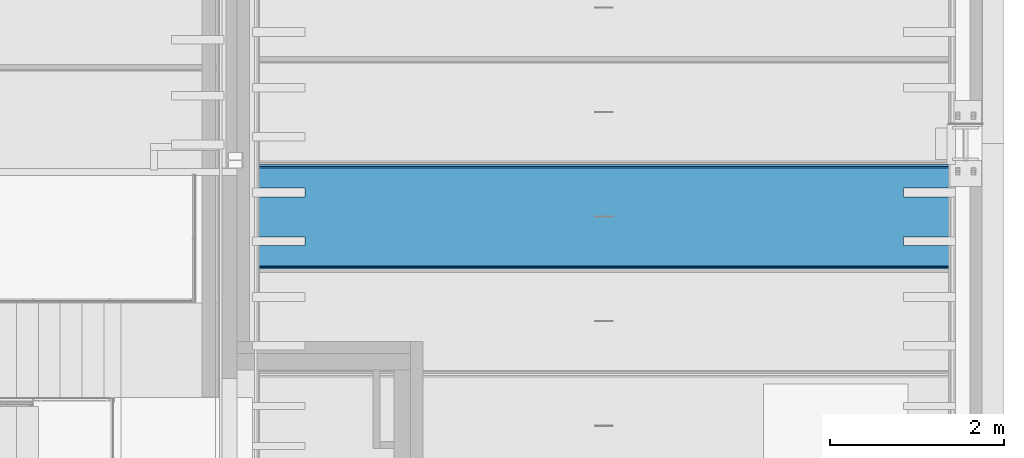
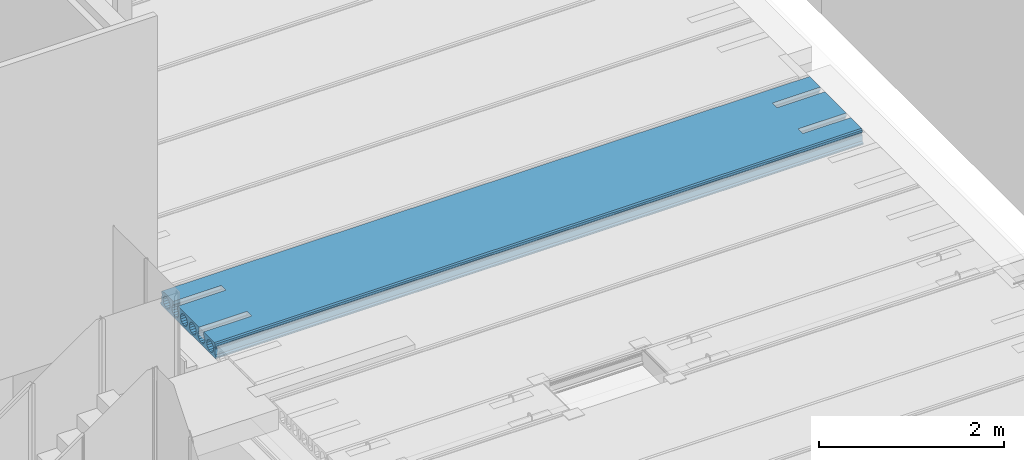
# One storey, part 102 of 230: 1 beam.
"""IFC4X3_ADD2 building model written with IfcOpenShell, lengths in millimetres."""

from ifc_helpers import new_model, si_unit, direction, origin_with_axes, place, context, subcontext, project, spatial, polygons, element, save


model = new_model("IFC4X3_ADD2")

# Units and contexts
model_context = context("Model", 3, precision=1e-05, world=origin_with_axes(), true_north=direction((0.0, 1.0)))
body_context = subcontext(model_context, "Body", "Model", "MODEL_VIEW")
ifc_project = project(units=[si_unit("LENGTHUNIT", "METRE", prefix="MILLI"), si_unit("AREAUNIT", "SQUARE_METRE"), si_unit("VOLUMEUNIT", "CUBIC_METRE"), si_unit("PLANEANGLEUNIT", "RADIAN"), si_unit("TIMEUNIT", "SECOND"), si_unit("MASSUNIT", "GRAM")], contexts=[model_context])

# Site, building, storey
site_placement = place(None, origin_with_axes())
site = spatial("IfcSite", under=ifc_project, at=site_placement, Name="Site", CompositionType="ELEMENT")
building_placement = place(site_placement, origin_with_axes())
building = spatial("IfcBuilding", under=site, at=building_placement, Name="IFC Building Story")
storey_placement = place(building_placement, origin_with_axes())
storey = spatial("IfcBuildingStorey", under=building, at=storey_placement, Name="ETAGE 00 (0)", Elevation=0.0)

# Beam
beam_placement = place(storey_placement, origin_with_axes())
element("IfcBeam", 1, at=beam_placement, inside=storey, Name="HOLLOWCORE SLAB", ObjectType="EB_SP200", context=body_context, shape_type="Tessellation", body=[
    polygons([(40131.189, 4549.0, 3999.9999909), (40131.189, 3371.0, 3999.9999909), (40131.189, 3360.0, 4012.9999909), (40131.189, 3360.0, 4029.9999909), (40131.189, 3380.0, 4044.9999909), (40131.189, 3381.450012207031, 4119.9999909), (40131.189, 3388.982621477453, 4128.676139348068), (40131.189, 3391.839930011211, 4139.805000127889), (40131.189, 3389.418636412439, 4151.036789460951), (40131.189, 3382.22998046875, 4159.9999909), (40131.189, 3382.711296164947, 4185.002769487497), (40131.189, 3398.0, 4199.9999909), (40131.189, 3630.0, 4199.9999909), (40131.189, 3630.0, 4155.806158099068), (40131.189, 3625.320544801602, 4152.679446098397), (40131.189, 3609.170974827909, 4128.509906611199), (40131.189, 3603.5, 4099.9999909), (40131.189, 3609.170974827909, 4071.490075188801), (40131.189, 3625.320544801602, 4047.320535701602), (40131.189, 3649.490084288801, 4031.170965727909), (40131.189, 3678.0, 4025.4999909), (40131.189, 3706.509915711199, 4031.170965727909), (40131.189, 3730.679455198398, 4047.320535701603), (40131.189, 3746.829025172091, 4071.490075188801), (40131.189, 3752.5, 4099.9999909), (40131.189, 3746.829025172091, 4128.509906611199), (40131.189, 3730.679455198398, 4152.679446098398), (40131.189, 3730.0, 4153.13344354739), (40131.189, 3730.0, 4199.9999909), (40131.189, 4190.0, 4199.9999909), (40131.189, 4190.0, 4153.13344354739), (40131.189, 4189.320544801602, 4152.679446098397), (40131.189, 4173.170974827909, 4128.509906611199), (40131.189, 4167.5, 4099.9999909), (40131.189, 4173.170974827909, 4071.490075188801), (40131.189, 4189.320544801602, 4047.320535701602), (40131.189, 4213.490084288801, 4031.170965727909), (40131.189, 4242.0, 4025.4999909), (40131.189, 4270.509915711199, 4031.170965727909), (40131.189, 4294.679455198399, 4047.320535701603), (40131.189, 4310.829025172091, 4071.490075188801), (40131.189, 4316.5, 4099.9999909), (40131.189, 4310.829025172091, 4128.509906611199), (40131.189, 4294.679455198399, 4152.679446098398), (40131.189, 4290.0, 4155.806158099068), (40131.189, 4290.0, 4199.9999909), (40131.189, 4522.0, 4199.9999909), (40131.189, 4537.28870383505, 4185.002769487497), (40131.189, 4537.77001953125, 4159.9999909), (40131.189, 4530.58136358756, 4151.036789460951), (40131.189, 4528.16006998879, 4139.805000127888), (40131.189, 4531.01737852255, 4128.676139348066), (40131.189, 4538.549987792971, 4119.9999909), (40131.189, 4540.0, 4044.9999909), (40131.189, 4560.0, 4029.9999909), (40131.189, 4560.0, 4012.9999909), (40131.189, 4482.6794551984, 4152.679446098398), (40131.189, 4458.5099157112, 4168.829016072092), (40131.189, 4430.0, 4174.4999909), (40131.189, 4401.4900842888, 4168.829016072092), (40131.189, 4377.3205448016, 4152.679446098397), (40131.189, 4361.17097482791, 4128.509906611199), (40131.189, 4355.5, 4099.9999909), (40131.189, 4361.17097482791, 4071.490075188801), (40131.189, 4377.3205448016, 4047.320535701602), (40131.189, 4401.4900842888, 4031.170965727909), (40131.189, 4430.0, 4025.4999909), (40131.189, 4458.5099157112, 4031.170965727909), (40131.189, 4482.6794551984, 4047.320535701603), (40131.189, 4498.82902517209, 4071.490075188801), (40131.189, 4504.5, 4099.9999909), (40131.189, 4498.82902517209, 4128.509906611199), (40131.189, 4106.679455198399, 4152.679446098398), (40131.189, 4082.509915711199, 4168.829016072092), (40131.189, 4054.0, 4174.4999909), (40131.189, 4025.490084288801, 4168.829016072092), (40131.189, 4001.320544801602, 4152.679446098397), (40131.189, 3985.170974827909, 4128.509906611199), (40131.189, 3979.5, 4099.9999909), (40131.189, 3985.170974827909, 4071.490075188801), (40131.189, 4001.320544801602, 4047.320535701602), (40131.189, 4025.490084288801, 4031.170965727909), (40131.189, 4054.0, 4025.4999909), (40131.189, 4082.509915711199, 4031.170965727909), (40131.189, 4106.679455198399, 4047.320535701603), (40131.189, 4122.829025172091, 4071.490075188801), (40131.189, 4128.5, 4099.9999909), (40131.189, 4122.829025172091, 4128.509906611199), (40131.189, 3918.679455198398, 4152.679446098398), (40131.189, 3894.509915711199, 4168.829016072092), (40131.189, 3866.0, 4174.4999909), (40131.189, 3837.490084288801, 4168.829016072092), (40131.189, 3813.320544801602, 4152.679446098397), (40131.189, 3797.170974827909, 4128.509906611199), (40131.189, 3791.5, 4099.9999909), (40131.189, 3797.170974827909, 4071.490075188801), (40131.189, 3813.320544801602, 4047.320535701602), (40131.189, 3837.490084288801, 4031.170965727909), (40131.189, 3866.0, 4025.4999909), (40131.189, 3894.509915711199, 4031.170965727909), (40131.189, 3918.679455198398, 4047.320535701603), (40131.189, 3934.829025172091, 4071.490075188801), (40131.189, 3940.5, 4099.9999909), (40131.189, 3934.829025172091, 4128.509906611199), (40131.189, 3542.679455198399, 4152.679446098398), (40131.189, 3518.509915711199, 4168.829016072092), (40131.189, 3490.0, 4174.4999909), (40131.189, 3461.490084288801, 4168.829016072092), (40131.189, 3437.320544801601, 4152.679446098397), (40131.189, 3421.17097482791, 4128.509906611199), (40131.189, 3415.500000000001, 4099.9999909), (40131.189, 3421.17097482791, 4071.490075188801), (40131.189, 3437.320544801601, 4047.320535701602), (40131.189, 3461.490084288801, 4031.170965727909), (40131.189, 3490.0, 4025.4999909), (40131.189, 3518.509915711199, 4031.170965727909), (40131.189, 3542.679455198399, 4047.320535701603), (40131.189, 3558.829025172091, 4071.490075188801), (40131.189, 3564.5, 4099.9999909), (40131.189, 3558.829025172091, 4128.509906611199), (48196.189, 4549.0, 3999.9999909), (48196.189, 4560.0, 4012.9999909), (48196.189, 4560.0, 4029.9999909), (48196.189, 4540.0, 4044.9999909), (48196.189, 4538.549987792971, 4119.9999909), (48196.189, 4531.01737852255, 4128.676139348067), (48196.189, 4528.16006998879, 4139.805000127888), (48196.189, 4530.58136358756, 4151.036789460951), (48196.189, 4537.77001953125, 4159.9999909), (48196.189, 4537.28870383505, 4185.002769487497), (48196.189, 4522.0, 4199.9999909), (48196.189, 4290.0, 4199.9999909), (48196.189, 4290.0, 4155.806158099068), (48196.189, 4294.679455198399, 4152.679446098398), (48196.189, 4310.829025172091, 4128.509906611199), (48196.189, 4316.5, 4099.9999909), (48196.189, 4310.829025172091, 4071.490075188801), (48196.189, 4294.679455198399, 4047.320535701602), (48196.189, 4270.509915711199, 4031.170965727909), (48196.189, 4242.0, 4025.4999909), (48196.189, 4213.490084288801, 4031.170965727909), (48196.189, 4189.320544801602, 4047.320535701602), (48196.189, 4173.170974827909, 4071.490075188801), (48196.189, 4167.5, 4099.9999909), (48196.189, 4173.170974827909, 4128.509906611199), (48196.189, 4189.320544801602, 4152.679446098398), (48196.189, 4190.0, 4153.13344354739), (48196.189, 4190.0, 4199.9999909), (48196.189, 3730.0, 4199.9999909), (48196.189, 3730.0, 4153.13344354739), (48196.189, 3730.679455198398, 4152.679446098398), (48196.189, 3746.829025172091, 4128.509906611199), (48196.189, 3752.5, 4099.9999909), (48196.189, 3746.829025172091, 4071.490075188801), (48196.189, 3730.679455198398, 4047.320535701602), (48196.189, 3706.509915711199, 4031.170965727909), (48196.189, 3678.0, 4025.4999909), (48196.189, 3649.490084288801, 4031.170965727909), (48196.189, 3625.320544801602, 4047.320535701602), (48196.189, 3609.170974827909, 4071.490075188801), (48196.189, 3603.5, 4099.9999909), (48196.189, 3609.170974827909, 4128.509906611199), (48196.189, 3625.320544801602, 4152.679446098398), (48196.189, 3630.0, 4155.806158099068), (48196.189, 3630.0, 4199.9999909), (48196.189, 3398.0, 4199.9999909), (48196.189, 3382.711296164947, 4185.002769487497), (48196.189, 3382.22998046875, 4159.9999909), (48196.189, 3389.418636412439, 4151.036789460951), (48196.189, 3391.839930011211, 4139.805000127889), (48196.189, 3388.982621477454, 4128.676139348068), (48196.189, 3381.450012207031, 4119.9999909), (48196.189, 3380.0, 4044.9999909), (48196.189, 3360.0, 4029.9999909), (48196.189, 3360.0, 4012.9999909), (48196.189, 3371.0, 3999.9999909), (48196.189, 4482.6794551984, 4152.679446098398), (48196.189, 4498.82902517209, 4128.509906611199), (48196.189, 4504.5, 4099.9999909), (48196.189, 4498.82902517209, 4071.490075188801), (48196.189, 4482.6794551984, 4047.320535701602), (48196.189, 4458.5099157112, 4031.170965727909), (48196.189, 4430.0, 4025.4999909), (48196.189, 4401.4900842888, 4031.170965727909), (48196.189, 4377.3205448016, 4047.320535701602), (48196.189, 4361.17097482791, 4071.490075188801), (48196.189, 4355.5, 4099.9999909), (48196.189, 4361.17097482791, 4128.509906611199), (48196.189, 4377.3205448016, 4152.679446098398), (48196.189, 4401.4900842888, 4168.829016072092), (48196.189, 4430.0, 4174.4999909), (48196.189, 4458.5099157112, 4168.829016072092), (48196.189, 4106.679455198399, 4152.679446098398), (48196.189, 4122.829025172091, 4128.509906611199), (48196.189, 4128.5, 4099.9999909), (48196.189, 4122.829025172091, 4071.490075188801), (48196.189, 4106.679455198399, 4047.320535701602), (48196.189, 4082.509915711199, 4031.170965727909), (48196.189, 4054.0, 4025.4999909), (48196.189, 4025.490084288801, 4031.170965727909), (48196.189, 4001.320544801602, 4047.320535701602), (48196.189, 3985.170974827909, 4071.490075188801), (48196.189, 3979.5, 4099.9999909), (48196.189, 3985.170974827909, 4128.509906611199), (48196.189, 4001.320544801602, 4152.679446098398), (48196.189, 4025.490084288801, 4168.829016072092), (48196.189, 4054.0, 4174.4999909), (48196.189, 4082.509915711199, 4168.829016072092), (48196.189, 3918.679455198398, 4152.679446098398), (48196.189, 3934.829025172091, 4128.509906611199), (48196.189, 3940.5, 4099.9999909), (48196.189, 3934.829025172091, 4071.490075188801), (48196.189, 3918.679455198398, 4047.320535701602), (48196.189, 3894.509915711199, 4031.170965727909), (48196.189, 3866.0, 4025.4999909), (48196.189, 3837.490084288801, 4031.170965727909), (48196.189, 3813.320544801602, 4047.320535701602), (48196.189, 3797.170974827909, 4071.490075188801), (48196.189, 3791.5, 4099.9999909), (48196.189, 3797.170974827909, 4128.509906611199), (48196.189, 3813.320544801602, 4152.679446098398), (48196.189, 3837.490084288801, 4168.829016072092), (48196.189, 3866.0, 4174.4999909), (48196.189, 3894.509915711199, 4168.829016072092), (48196.189, 3542.679455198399, 4152.679446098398), (48196.189, 3558.829025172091, 4128.509906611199), (48196.189, 3564.5, 4099.9999909), (48196.189, 3558.829025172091, 4071.490075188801), (48196.189, 3542.679455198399, 4047.320535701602), (48196.189, 3518.509915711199, 4031.170965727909), (48196.189, 3490.0, 4025.4999909), (48196.189, 3461.490084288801, 4031.170965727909), (48196.189, 3437.320544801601, 4047.320535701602), (48196.189, 3421.17097482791, 4071.490075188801), (48196.189, 3415.500000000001, 4099.9999909), (48196.189, 3421.17097482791, 4128.509906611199), (48196.189, 3437.320544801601, 4152.679446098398), (48196.189, 3461.490084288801, 4168.829016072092), (48196.189, 3490.0, 4174.4999909), (48196.189, 3518.509915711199, 4168.829016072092), (40731.189, 4290.0, 4199.9999909), (40731.189, 4190.0, 4199.9999909), (40731.189, 3730.0, 4199.9999909), (40731.189, 3630.0, 4199.9999909), (47596.18900000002, 3630.0, 4199.9999909), (47596.18900000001, 3730.0, 4199.9999909), (47596.18900000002, 4190.0, 4199.9999909), (47596.18900000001, 4290.0, 4199.9999909), (47596.18900000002, 4290.0, 4155.806158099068), (47596.18900000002, 4270.509915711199, 4168.829016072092), (40731.189, 4270.5099157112, 4168.829016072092), (40731.189, 4290.0, 4155.806158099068), (47596.18900000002, 4242.0, 4174.4999909), (40731.189, 4242.0, 4174.4999909), (47596.18900000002, 4213.490084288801, 4168.829016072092), (40731.189, 4213.490084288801, 4168.829016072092), (40731.189, 4190.0, 4153.13344354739), (47596.18900000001, 4190.0, 4153.13344354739), (47596.18900000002, 3730.0, 4153.13344354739), (47596.18900000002, 3706.509915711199, 4168.829016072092), (40731.189, 3706.509915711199, 4168.829016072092), (40731.189, 3730.0, 4153.13344354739), (47596.18900000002, 3678.0, 4174.4999909), (40731.189, 3678.0, 4174.4999909), (47596.18900000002, 3649.490084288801, 4168.829016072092), (40731.189, 3649.490084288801, 4168.829016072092), (40731.189, 3630.0, 4155.806158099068), (47596.18900000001, 3630.0, 4155.806158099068), (40731.189, 4190.0, 4199.999996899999), (40731.189, 4290.0, 4199.999996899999), (47596.18900000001, 4290.0, 4199.999996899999), (47596.18900000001, 4190.0, 4199.999996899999), (47596.18900000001, 3730.0, 4199.999996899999), (47596.18900000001, 3630.0, 4199.999996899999), (40731.189, 3630.0, 4199.999996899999), (40731.189, 3730.0, 4199.999996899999)], [[[27, 28, 29]], [[92, 93, 26]], [[92, 26, 27]], [[92, 27, 29]], [[29, 91, 92]], [[91, 29, 30]], [[30, 90, 91]], [[30, 89, 90]], [[94, 95, 25]], [[94, 25, 26]], [[26, 93, 94]], [[96, 97, 24]], [[24, 25, 95]], [[24, 95, 96]], [[97, 23, 24]], [[76, 77, 104]], [[76, 104, 89]], [[89, 75, 76]], [[75, 89, 30]], [[30, 74, 75]], [[30, 73, 74]], [[78, 79, 103]], [[78, 103, 104]], [[104, 77, 78]], [[80, 81, 102]], [[102, 103, 79]], [[102, 79, 80]], [[81, 101, 102]], [[88, 73, 30]], [[88, 30, 31]], [[33, 34, 87]], [[33, 87, 88]], [[88, 32, 33]], [[88, 31, 32]], [[35, 36, 86]], [[86, 87, 34]], [[86, 34, 35]], [[36, 85, 86]], [[44, 45, 46]], [[60, 61, 43]], [[60, 43, 44]], [[60, 44, 46]], [[46, 59, 60]], [[46, 47, 59]], [[47, 58, 59]], [[47, 57, 58]], [[62, 63, 42]], [[62, 42, 43]], [[43, 61, 62]], [[64, 65, 41]], [[41, 42, 63]], [[41, 63, 64]], [[50, 51, 72]], [[50, 72, 57]], [[57, 47, 48]], [[57, 48, 49]], [[57, 49, 50]], [[52, 53, 71]], [[52, 71, 72]], [[72, 51, 52]], [[53, 54, 70]], [[53, 70, 71]], [[54, 55, 56]], [[54, 56, 1]], [[1, 69, 70]], [[1, 70, 54]], [[1, 68, 69]], [[1, 67, 68]], [[1, 66, 67]], [[1, 40, 66]], [[40, 41, 65]], [[40, 65, 66]], [[1, 39, 40]], [[1, 38, 39]], [[1, 84, 38]], [[84, 37, 38]], [[84, 85, 36]], [[84, 36, 37]], [[1, 83, 84]], [[1, 100, 83]], [[100, 82, 83]], [[100, 101, 81]], [[100, 81, 82]], [[1, 99, 100]], [[1, 22, 99]], [[22, 98, 99]], [[22, 23, 97]], [[22, 97, 98]], [[1, 21, 22]], [[1, 2, 21]], [[2, 20, 21]], [[2, 19, 20]], [[9, 10, 11]], [[9, 11, 12]], [[109, 110, 8]], [[109, 8, 9]], [[9, 12, 108]], [[9, 108, 109]], [[12, 107, 108]], [[107, 12, 13]], [[13, 106, 107]], [[13, 105, 106]], [[110, 7, 8]], [[112, 113, 5]], [[5, 6, 111]], [[5, 111, 112]], [[6, 7, 110]], [[6, 110, 111]], [[116, 117, 18]], [[116, 18, 19]], [[19, 115, 116]], [[19, 2, 115]], [[2, 114, 115]], [[2, 5, 113]], [[2, 113, 114]], [[2, 3, 4]], [[2, 4, 5]], [[118, 119, 17]], [[118, 17, 18]], [[18, 117, 118]], [[120, 105, 16]], [[16, 17, 119]], [[16, 119, 120]], [[105, 13, 15]], [[105, 15, 16]], [[13, 14, 15]], [[173, 174, 175]], [[173, 175, 176]], [[128, 129, 130]], [[128, 130, 131]], [[128, 131, 177]], [[177, 178, 127]], [[177, 127, 128]], [[178, 126, 127]], [[180, 181, 124]], [[124, 125, 179]], [[124, 179, 180]], [[125, 126, 178]], [[125, 178, 179]], [[192, 177, 131]], [[131, 191, 192]], [[191, 131, 132]], [[132, 190, 191]], [[132, 189, 190]], [[132, 133, 188]], [[132, 188, 189]], [[135, 136, 187]], [[135, 187, 188]], [[188, 134, 135]], [[188, 133, 134]], [[137, 138, 186]], [[186, 187, 136]], [[186, 136, 137]], [[138, 139, 185]], [[138, 185, 186]], [[139, 184, 185]], [[146, 147, 148]], [[148, 193, 145]], [[148, 145, 146]], [[194, 195, 144]], [[194, 144, 145]], [[145, 193, 194]], [[196, 197, 143]], [[143, 144, 195]], [[143, 195, 196]], [[197, 142, 143]], [[208, 193, 148]], [[148, 207, 208]], [[148, 209, 207]], [[209, 206, 207]], [[209, 205, 206]], [[209, 204, 205]], [[210, 211, 203]], [[210, 203, 204]], [[204, 209, 210]], [[212, 213, 202]], [[202, 203, 211]], [[202, 211, 212]], [[213, 201, 202]], [[224, 209, 148]], [[148, 223, 224]], [[148, 149, 223]], [[149, 222, 223]], [[149, 221, 222]], [[149, 150, 220]], [[149, 220, 221]], [[152, 153, 219]], [[152, 219, 220]], [[220, 151, 152]], [[220, 150, 151]], [[154, 155, 218]], [[218, 219, 153]], [[218, 153, 154]], [[155, 217, 218]], [[163, 164, 165]], [[165, 225, 162]], [[165, 162, 163]], [[226, 227, 161]], [[226, 161, 162]], [[162, 225, 226]], [[228, 229, 160]], [[160, 161, 227]], [[160, 227, 228]], [[235, 236, 171]], [[235, 171, 172]], [[172, 173, 234]], [[172, 234, 235]], [[173, 176, 233]], [[173, 233, 234]], [[176, 232, 233]], [[176, 231, 232]], [[176, 230, 231]], [[176, 159, 230]], [[159, 160, 229]], [[159, 229, 230]], [[176, 158, 159]], [[176, 157, 158]], [[176, 216, 157]], [[216, 156, 157]], [[216, 217, 155]], [[216, 155, 156]], [[176, 215, 216]], [[176, 200, 215]], [[200, 214, 215]], [[200, 201, 213]], [[200, 213, 214]], [[176, 199, 200]], [[176, 141, 199]], [[141, 198, 199]], [[141, 142, 197]], [[141, 197, 198]], [[176, 140, 141]], [[176, 183, 140]], [[183, 184, 139]], [[183, 139, 140]], [[176, 121, 183]], [[121, 182, 183]], [[121, 124, 181]], [[121, 181, 182]], [[121, 122, 123]], [[121, 123, 124]], [[236, 170, 171]], [[240, 225, 165]], [[165, 239, 240]], [[165, 166, 239]], [[166, 238, 239]], [[166, 169, 237]], [[166, 237, 238]], [[169, 170, 236]], [[169, 236, 237]], [[166, 167, 168]], [[166, 168, 169]], [[2, 1, 121, 176]], [[3, 2, 176, 175]], [[4, 3, 175, 174]], [[5, 4, 174, 173]], [[6, 5, 173, 172]], [[7, 6, 172, 171]], [[8, 7, 171, 170]], [[9, 8, 170, 169]], [[10, 9, 169, 168]], [[11, 10, 168, 167]], [[12, 11, 167, 166]], [[242, 30, 29]], [[242, 29, 243]], [[244, 13, 12]], [[244, 12, 166]], [[166, 243, 244]], [[242, 243, 166]], [[166, 241, 242]], [[246, 149, 148]], [[246, 148, 247]], [[248, 132, 131]], [[248, 131, 47]], [[47, 247, 248]], [[246, 247, 47]], [[47, 245, 246]], [[47, 241, 166]], [[47, 166, 245]], [[166, 165, 245]], [[47, 46, 241]], [[48, 47, 131, 130]], [[49, 48, 130, 129]], [[50, 49, 129, 128]], [[51, 50, 128, 127]], [[52, 51, 127, 126]], [[53, 52, 126, 125]], [[54, 53, 125, 124]], [[55, 54, 124, 123]], [[56, 55, 123, 122]], [[1, 56, 122, 121]], [[58, 57, 177, 192]], [[59, 58, 192, 191]], [[60, 59, 191, 190]], [[61, 60, 190, 189]], [[62, 61, 189, 188]], [[63, 62, 188, 187]], [[64, 63, 187, 186]], [[65, 64, 186, 185]], [[66, 65, 185, 184]], [[67, 66, 184, 183]], [[68, 67, 183, 182]], [[69, 68, 182, 181]], [[70, 69, 181, 180]], [[71, 70, 180, 179]], [[72, 71, 179, 178]], [[57, 72, 178, 177]], [[252, 45, 44]], [[252, 44, 249]], [[249, 250, 251]], [[249, 251, 252]], [[44, 134, 249]], [[134, 133, 249]], [[251, 250, 253, 254]], [[254, 253, 255, 256]], [[258, 147, 146]], [[258, 146, 257]], [[257, 256, 255]], [[257, 255, 258]], [[146, 32, 257]], [[32, 31, 257]], [[33, 32, 146, 145]], [[34, 33, 145, 144]], [[35, 34, 144, 143]], [[36, 35, 143, 142]], [[37, 36, 142, 141]], [[38, 37, 141, 140]], [[39, 38, 140, 139]], [[40, 39, 139, 138]], [[41, 40, 138, 137]], [[42, 41, 137, 136]], [[43, 42, 136, 135]], [[44, 43, 135, 134]], [[74, 73, 193, 208]], [[75, 74, 208, 207]], [[76, 75, 207, 206]], [[77, 76, 206, 205]], [[78, 77, 205, 204]], [[79, 78, 204, 203]], [[80, 79, 203, 202]], [[81, 80, 202, 201]], [[82, 81, 201, 200]], [[83, 82, 200, 199]], [[84, 83, 199, 198]], [[85, 84, 198, 197]], [[86, 85, 197, 196]], [[87, 86, 196, 195]], [[88, 87, 195, 194]], [[73, 88, 194, 193]], [[90, 89, 209, 224]], [[91, 90, 224, 223]], [[92, 91, 223, 222]], [[93, 92, 222, 221]], [[94, 93, 221, 220]], [[95, 94, 220, 219]], [[96, 95, 219, 218]], [[97, 96, 218, 217]], [[98, 97, 217, 216]], [[99, 98, 216, 215]], [[100, 99, 215, 214]], [[101, 100, 214, 213]], [[102, 101, 213, 212]], [[103, 102, 212, 211]], [[104, 103, 211, 210]], [[89, 104, 210, 209]], [[262, 28, 27]], [[262, 27, 259]], [[259, 260, 261]], [[259, 261, 262]], [[27, 151, 259]], [[151, 150, 259]], [[260, 263, 264, 261]], [[263, 265, 266, 264]], [[268, 164, 163]], [[268, 163, 267]], [[267, 266, 265]], [[267, 265, 268]], [[163, 15, 267]], [[15, 14, 267]], [[16, 15, 163, 162]], [[17, 16, 162, 161]], [[18, 17, 161, 160]], [[19, 18, 160, 159]], [[20, 19, 159, 158]], [[21, 20, 158, 157]], [[22, 21, 157, 156]], [[23, 22, 156, 155]], [[24, 23, 155, 154]], [[25, 24, 154, 153]], [[26, 25, 153, 152]], [[27, 26, 152, 151]], [[106, 105, 225, 240]], [[107, 106, 240, 239]], [[108, 107, 239, 238]], [[109, 108, 238, 237]], [[110, 109, 237, 236]], [[111, 110, 236, 235]], [[112, 111, 235, 234]], [[113, 112, 234, 233]], [[114, 113, 233, 232]], [[115, 114, 232, 231]], [[116, 115, 231, 230]], [[117, 116, 230, 229]], [[118, 117, 229, 228]], [[119, 118, 228, 227]], [[120, 119, 227, 226]], [[105, 120, 226, 225]], [[46, 45, 252, 241]], [[31, 30, 269, 257]], [[256, 257, 242]], [[242, 270, 254]], [[242, 254, 256]], [[270, 251, 254]], [[270, 252, 251]], [[148, 147, 258, 247]], [[133, 132, 271, 249]], [[250, 249, 248]], [[248, 253, 250]], [[248, 272, 255]], [[248, 255, 253]], [[272, 258, 255]], [[165, 164, 268, 245]], [[150, 149, 273, 259]], [[260, 259, 246]], [[246, 274, 263]], [[246, 263, 260]], [[274, 265, 263]], [[274, 268, 265]], [[262, 243, 29, 28]], [[275, 267, 14, 13]], [[266, 267, 244]], [[244, 264, 266]], [[244, 276, 261]], [[244, 261, 264]], [[276, 262, 261]]]),
])

save(model, "model.ifc")
